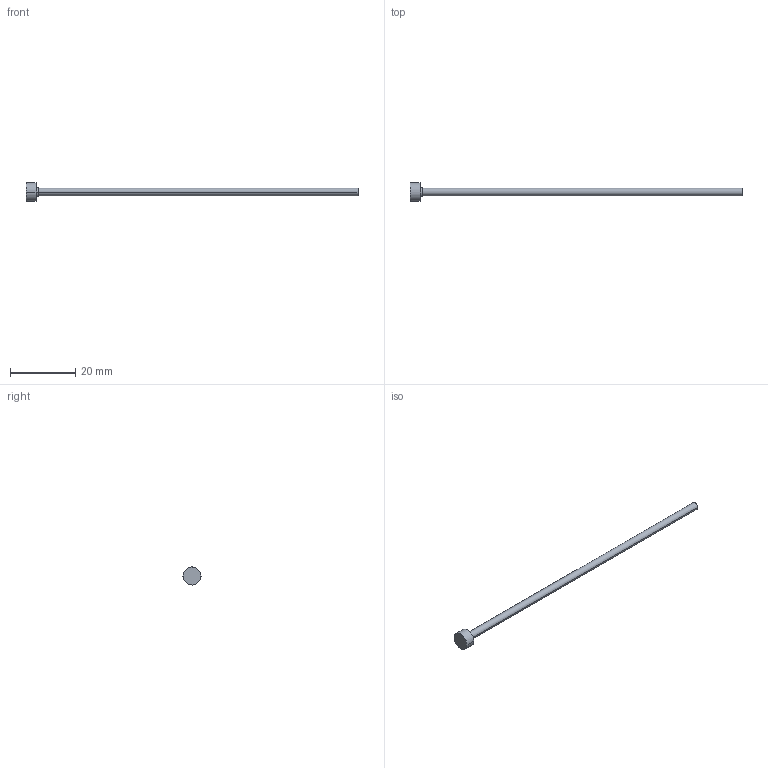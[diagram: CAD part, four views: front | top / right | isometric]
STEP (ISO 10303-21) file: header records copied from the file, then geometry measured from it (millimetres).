
FILE_DESCRIPTION (( 'STEP AP214' ), '1' );
FILE_NAME ('P7-4.STEP', '2020-03-11T17:09:46', ( '' ), ( '' ), 'SwSTEP 2.0', 'SolidWorks 2018', '' );
FILE_SCHEMA (( 'AUTOMOTIVE_DESIGN' ));
Length unit declared in the file: inch
Products named in the file (1): P7-4
Bounding box: 101.6 x 5.56 x 5.56 mm (x, y, z)
Volume: 513.4 mm3; surface area: 833.6 mm2
Topology: 1 solids, 1 shells, 13 faces, 24 edges, 14 vertices
Faces by surface type: cone 4, cylinder 4, plane 3, torus 2
Entity records: 366 total; most frequent: DIRECTION 68, CARTESIAN_POINT 52, ORIENTED_EDGE 48, AXIS2_PLACEMENT_3D 30, EDGE_CURVE 24, CIRCLE 16, EDGE_LOOP 14, VERTEX_POINT 14
